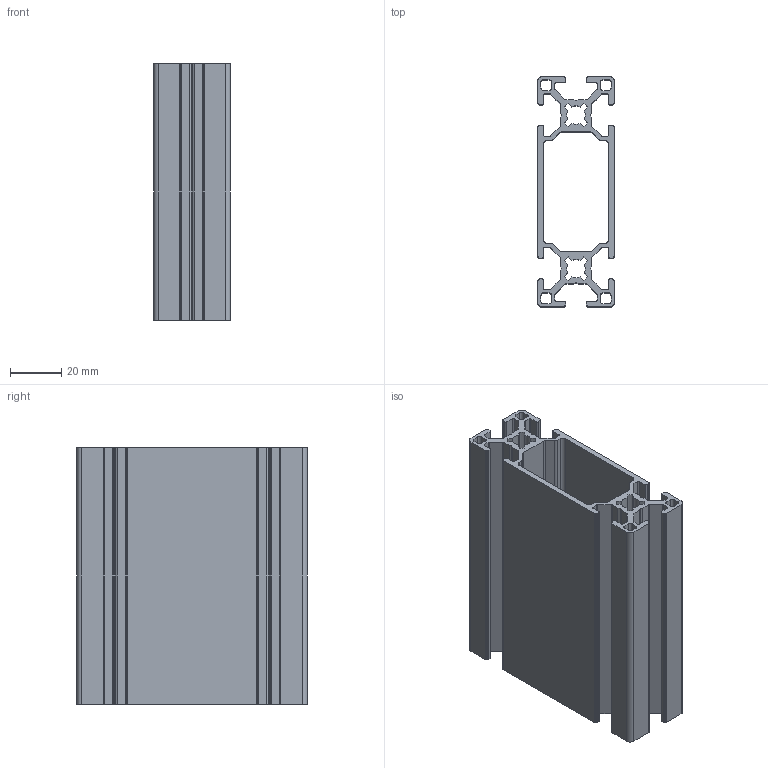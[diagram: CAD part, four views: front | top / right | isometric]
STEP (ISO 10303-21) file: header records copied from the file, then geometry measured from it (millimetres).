
FILE_DESCRIPTION(/* description */ ('www.motedis.com/part/P30x90_6N_N8_B','CAx-IF Rec.Pracs.---Representation and Presentation of Product Manufacturing Information (PMI)---4.0---2014-10-13'),/* implementation_level */ '2;1');
FILE_NAME(/* name */ 'P30x90_6N_N8_B.stp',/* time_stamp */ '2026-10-20T14:33:32+02:00',/* author */ ('Motedis'),/* organization */ ('Motedis GmbH'),/* preprocessor_version */ 'ST-DEVELOPER v20.1',/* originating_system */ 'Autodesk Inventor 2026',/* authorisation */ 'Motedis GmbH');
FILE_SCHEMA (('AP242_MANAGED_MODEL_BASED_3D_ENGINEERING_MIM_LF { 1 0 10303 442 2 1 4 }'));
Length unit declared in the file: millimetre
Products named in the file (1): P30x90_6N_N8_B
Bounding box: 30 x 90 x 100 mm (x, y, z)
Volume: 69436.9 mm3; surface area: 69324.9 mm2
Topology: 1 solids, 1 shells, 290 faces, 864 edges, 576 vertices
Faces by surface type: plane 152, cylinder 138
Entity records: 12082 total; most frequent: CARTESIAN_POINT 2464, DIRECTION 2006, ORIENTED_EDGE 1728, EDGE_CURVE 864, AXIS2_PLACEMENT_3D 709, LINE 588, VECTOR 588, VERTEX_POINT 576
